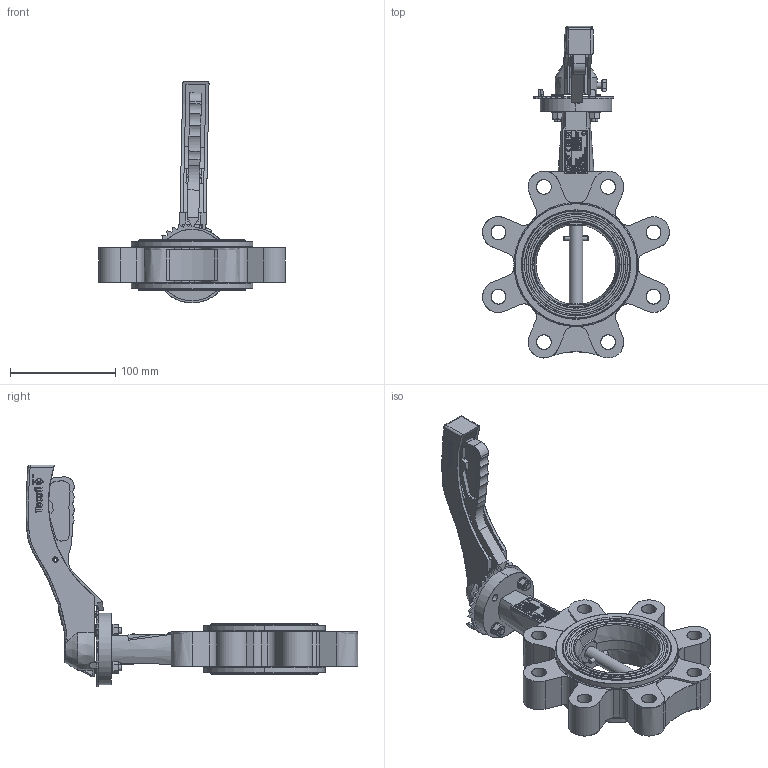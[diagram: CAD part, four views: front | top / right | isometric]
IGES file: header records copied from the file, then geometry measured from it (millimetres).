
Start section: SolidWorks IGES file using analytic representation for surfaces
Global section: file name: H:\BE BIBLIOTHEQUE 3D\BE SECTION 01 - ROBINETS A PAPILLON_VANNES PASSAGE DIRECTE\VP - Vanne Papillon\VPG\LUG\DN80\VPG464X-02XX0080VPG464X-02XX0080--.igs; native system: SolidWorks 2020; preprocessor: SolidWorks 2020; author: k.gigout; date: 220519.121147; units: millimetre
Bounding box: 177.82 x 315.84 x 211.19 mm (x, y, z)
Surface area: 168829.3 mm2 (no closed solid volume)
Topology: 0 solids, 0 shells, 714 faces, 18338 edges, 18334 vertices
Faces by surface type: bspline 484, revolution 230
